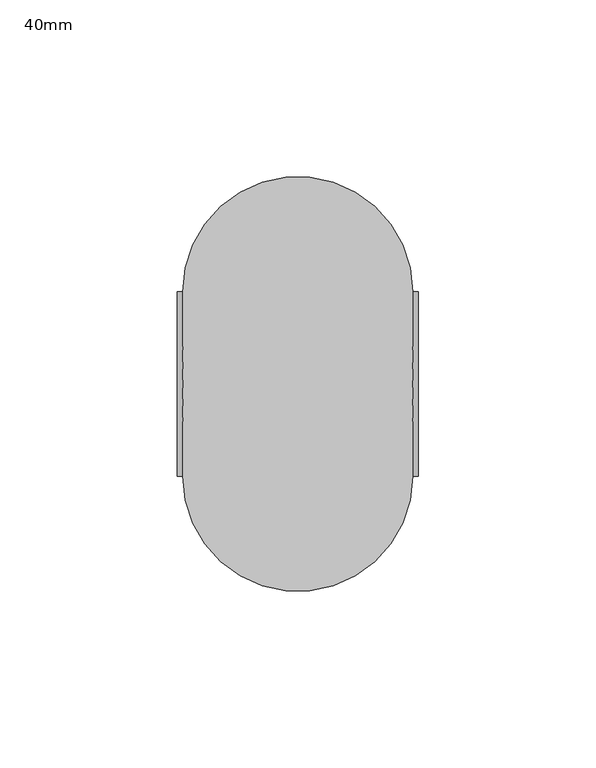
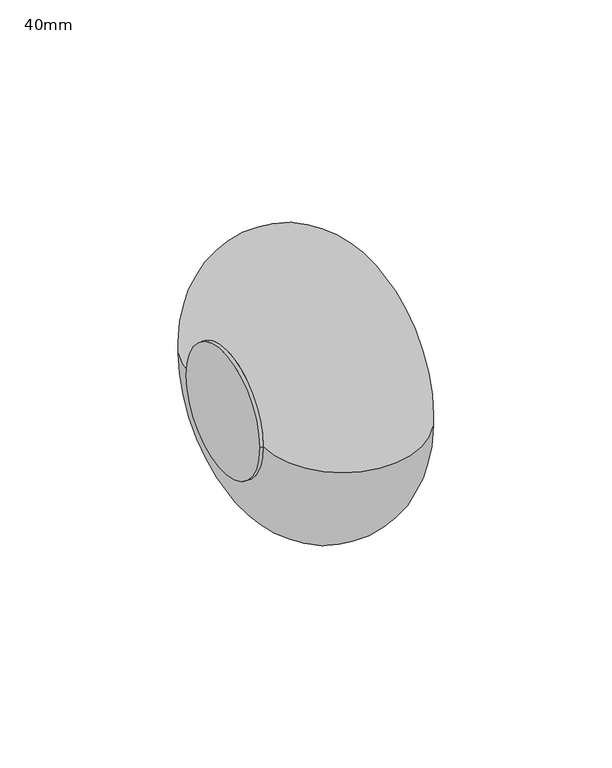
"""IFC4 building model written with IfcOpenShell, lengths in millimetres: pipe fitting geometry, PipeAccessory_HTA_CPVC_LinearExpansionCompensatorPN16 : 40mm."""

import ifcopenshell
import ifcopenshell.guid

model = None  # the IFC model being written
_history = None  # IfcOwnerHistory: only IFC2X3 demands one
_inside = {}  # id of a spatial element -> (the spatial element, [elements in it])
_under = {}  # id of a project, library or spatial element -> (it, [spatial elements below it])
_declared = {}  # id of a project -> (the project, [libraries it declares])
_typed = {}  # id of a type object -> (the type object, [elements of that type])
_made_of = {}  # id of a material, layer set ... -> (it, [elements and type objects made of it])


def new_model(schema):
    """Start an empty IFC model of exactly this schema.

    Asked for "IFC4X3", IfcOpenShell would pick the latest addendum, in which some entities
    have other attributes; the version numbers below select the first issue.
    IFC2X3 requires an IfcOwnerHistory on every rooted entity: one is made here for all.
    """
    global model, _history
    if schema == "IFC4X3":
        model = ifcopenshell.file(schema_version=(4, 3, 0, 0))
    else:
        model = ifcopenshell.file(schema=schema)
    _inside.clear()
    _under.clear()
    _declared.clear()
    _typed.clear()
    _made_of.clear()
    _history = None
    if model.schema == "IFC2X3":
        org = make("IfcOrganization", Name="unknown")
        user = make(
            "IfcPersonAndOrganization",
            ThePerson=make("IfcPerson", FamilyName="unknown"),
            TheOrganization=org,
        )
        app = make(
            "IfcApplication",
            ApplicationDeveloper=org,
            Version="unknown",
            ApplicationFullName="unknown",
            ApplicationIdentifier="unknown",
        )
        _history = make(
            "IfcOwnerHistory",
            OwningUser=user,
            OwningApplication=app,
            ChangeAction="ADDED",
            CreationDate=0,
        )
    return model


def make(cls, **values):
    """One entity of the class cls with the attributes given. An attribute that is None is left unset."""
    return model.create_entity(
        cls, **{name: value for name, value in values.items() if value is not None}
    )


def rooted(cls, **values):
    """An entity with a GlobalId (a new one), such as an element, a storey or a relation."""
    return make(cls, GlobalId=ifcopenshell.guid.new(), OwnerHistory=_history, **values)


def si_unit(unit_type, name, prefix=None):
    """IfcSIUnit, for example si_unit("LENGTHUNIT", "METRE", prefix="MILLI")."""
    return make("IfcSIUnit", UnitType=unit_type, Prefix=prefix, Name=name)


def assignment(units):
    """IfcUnitAssignment: the units of a project."""
    return None if units is None else make("IfcUnitAssignment", Units=units)


def point(xyz):
    """IfcCartesianPoint."""
    return None if xyz is None else make("IfcCartesianPoint", Coordinates=xyz)


def direction(xyz):
    """IfcDirection."""
    return None if xyz is None else make("IfcDirection", DirectionRatios=xyz)


def frame(location, z_axis=None, x_axis=None):
    """IfcAxis2Placement3D, a coordinate frame: its origin and axes. An axis left out is left unset."""
    return make(
        "IfcAxis2Placement3D",
        Location=point(location),
        Axis=direction(z_axis),
        RefDirection=direction(x_axis),
    )


def frame_2d(location, x_axis=None):
    """IfcAxis2Placement2D, a coordinate frame in the plane: its origin and x axis."""
    return make(
        "IfcAxis2Placement2D", Location=point(location), RefDirection=direction(x_axis)
    )


def origin():
    """The frame at (0, 0, 0) with its axes left unset."""
    return frame((0.0, 0.0, 0.0))


def origin_2d():
    """The frame at (0, 0) in the plane with its x axis left unset."""
    return frame_2d((0.0, 0.0))


def place(relative_to, where):
    """IfcLocalPlacement: puts the frame where relative to a parent placement (None: the world)."""
    return make(
        "IfcLocalPlacement", PlacementRelTo=relative_to, RelativePlacement=where
    )


def context(
    kind, dimensions, precision=None, world=None, true_north=None, identifier=None
):
    """IfcGeometricRepresentationContext, for example the 3D "Model" context."""
    return make(
        "IfcGeometricRepresentationContext",
        ContextIdentifier=identifier,
        ContextType=kind,
        CoordinateSpaceDimension=dimensions,
        Precision=precision,
        WorldCoordinateSystem=world,
        TrueNorth=true_north,
    )


def project(units=None, contexts=None):
    """IfcProject with its units and contexts."""
    return rooted(
        "IfcProject",
        Name="project",
        RepresentationContexts=contexts,
        UnitsInContext=assignment(units),
    )


def spatial(cls, under=None, at=None, **own):
    """A site, building, storey or space (cls), placed at a placement, below another one or the project."""
    s = rooted(cls, ObjectPlacement=at, **own)
    if under is not None:
        _under.setdefault(under.id(), (under, []))[1].append(s)
    return s


def circle_curve(where, radius):
    """IfcCircle in the frame where."""
    return make("IfcCircle", Position=where, Radius=radius)


def ellipse_curve(where, semi_axis1, semi_axis2):
    """IfcEllipse in the frame where."""
    return make(
        "IfcEllipse", Position=where, SemiAxis1=semi_axis1, SemiAxis2=semi_axis2
    )


def trimmed(basis, trim1, trim2, sense, master):
    """IfcTrimmedCurve: the piece of a basis curve between two trims."""
    return make(
        "IfcTrimmedCurve",
        BasisCurve=basis,
        Trim1=trim1,
        Trim2=trim2,
        SenseAgreement=sense,
        MasterRepresentation=master,
    )


def segment(curve, same_sense, transition):
    """IfcCompositeCurveSegment."""
    return make(
        "IfcCompositeCurveSegment",
        Transition=transition,
        SameSense=same_sense,
        ParentCurve=curve,
    )


def composite_curve(segments, self_intersect=None):
    """IfcCompositeCurve: segments joined end to end."""
    return make("IfcCompositeCurve", Segments=segments, SelfIntersect=self_intersect)


def outline(outer, holes=None, kind="AREA"):
    """IfcArbitraryClosedProfileDef: a profile drawn as a closed curve; with holes, ...WithVoids."""
    if holes is None:
        return make("IfcArbitraryClosedProfileDef", ProfileType=kind, OuterCurve=outer)
    return make(
        "IfcArbitraryProfileDefWithVoids",
        ProfileType=kind,
        OuterCurve=outer,
        InnerCurves=holes,
    )


def extrude(swept, where, along, depth):
    """IfcExtrudedAreaSolid: the profile swept, set in the frame where, extruded along a direction by depth."""
    return make(
        "IfcExtrudedAreaSolid",
        SweptArea=swept,
        Position=where,
        ExtrudedDirection=direction(along),
        Depth=depth,
    )


def shape(context_of_items, identifier, shape_type, items):
    """IfcShapeRepresentation: the items that make up one representation, for example the "Body"."""
    return make(
        "IfcShapeRepresentation",
        ContextOfItems=context_of_items,
        RepresentationIdentifier=identifier,
        RepresentationType=shape_type,
        Items=items,
    )


def source(mapping_origin, context_of_items, identifier, shape_type, items):
    """IfcRepresentationMap: a shape defined once, which mapped items show again and again."""
    return make(
        "IfcRepresentationMap",
        MappingOrigin=mapping_origin,
        MappedRepresentation=shape(context_of_items, identifier, shape_type, items),
    )


def transform(
    local_origin,
    x_axis=None,
    y_axis=None,
    z_axis=None,
    scale=None,
    scale2=None,
    scale3=None,
    uniform=True,
):
    """IfcCartesianTransformationOperator3D, or its non-uniform kind. x_axis, y_axis, z_axis: its Axis1, 2, 3."""
    if uniform:
        return make(
            "IfcCartesianTransformationOperator3D",
            Axis1=direction(x_axis),
            Axis2=direction(y_axis),
            LocalOrigin=point(local_origin),
            Scale=scale,
            Axis3=direction(z_axis),
        )
    return make(
        "IfcCartesianTransformationOperator3DnonUniform",
        Axis1=direction(x_axis),
        Axis2=direction(y_axis),
        LocalOrigin=point(local_origin),
        Scale=scale,
        Axis3=direction(z_axis),
        Scale2=scale2,
        Scale3=scale3,
    )


def mapped(mapping_source, mapping_target):
    """IfcMappedItem: shows the shape of a source again, moved by a transform."""
    return make(
        "IfcMappedItem", MappingSource=mapping_source, MappingTarget=mapping_target
    )


def made_of(thing, what):
    """Note that an element or type object is made of a material, layer set ...; save() writes the relation."""
    if what is not None:
        _made_of.setdefault(what.id(), (what, []))[1].append(thing)
    return thing


def element(
    cls,
    number,
    at=None,
    inside=None,
    cuts=None,
    type_object=None,
    material=None,
    context=None,
    identifier="Body",
    shape_type=None,
    held_by="IfcProductDefinitionShape",
    body=None,
    shapes=None,
    **own,
):
    """One element of the class cls, such as IfcWall. Its Tag is "e" and its number.

    at: its placement. inside: the storey or other place that contains it. cuts: it is an
    opening in that element (IfcRelVoidsElement). A single representation is given by context,
    identifier, shape_type and body (its items); several are given by shapes. held_by: the class
    of the entity that holds the representations. save() writes the other relations.
    """
    e = rooted(cls, Tag="e%d" % number, ObjectPlacement=at, **own)
    if body is not None:
        shapes = [shape(context, identifier, shape_type, body)]
    if shapes is not None:
        e.Representation = make(held_by, Representations=shapes)
    if inside is not None:
        _inside.setdefault(inside.id(), (inside, []))[1].append(e)
    if cuts is not None:
        rooted(
            "IfcRelVoidsElement", RelatingBuildingElement=cuts, RelatedOpeningElement=e
        )
    if type_object is not None:
        _typed.setdefault(type_object.id(), (type_object, []))[1].append(e)
    return made_of(e, material)


def aggregate(whole, parts):
    """IfcRelAggregates: a whole, such as a stair, and the parts it consists of."""
    return rooted("IfcRelAggregates", RelatingObject=whole, RelatedObjects=parts)


def save(model, path):
    """Write the relations noted so far, then the file.

    IfcRelAggregates (storeys below a building ...), IfcRelContainedInSpatialStructure (elements
    in a storey), IfcRelDefinesByType, IfcRelAssociatesMaterial and IfcRelDeclares: one each for
    every whole, place, type object, material and project.
    """
    for whole, parts in _under.values():
        aggregate(whole, parts)
    for where, things in _inside.values():
        rooted(
            "IfcRelContainedInSpatialStructure",
            RelatedElements=things,
            RelatingStructure=where,
        )
    for kind, things in _typed.values():
        rooted("IfcRelDefinesByType", RelatedObjects=things, RelatingType=kind)
    for what, things in _made_of.values():
        rooted("IfcRelAssociatesMaterial", RelatedObjects=things, RelatingMaterial=what)
    for by, libraries in _declared.values():
        rooted("IfcRelDeclares", RelatingContext=by, RelatedDefinitions=libraries)
    model.write(path)


def plane_surface(at):
    """IfcPlane: the flat surface through the origin of the frame at, square to its z axis."""
    return make("IfcPlane", Position=at)


def revolved_surface(curve, axis_point, axis_direction):
    """IfcSurfaceOfRevolution: the curve turned about the line through axis_point along axis_direction."""
    return make(
        "IfcSurfaceOfRevolution",
        SweptCurve=make("IfcArbitraryOpenProfileDef", ProfileType="CURVE", Curve=curve),
        AxisPosition=make("IfcAxis1Placement", Location=point(axis_point), Axis=direction(axis_direction)),
    )


def advanced_brep(points, edges, surfaces, faces):
    """IfcAdvancedBrep: a solid bounded by faces that lie on surfaces and meet in shared edges.

    An edge is (start, end): straight between two places in points (the first is 0);
    or (start, end, curve); or (start, end, curve, False) where it runs against its curve.
    A face is (place in surfaces, loops), or (place, loops, False) where it looks against
    its surface's normal. A loop lists edges by number (the first is 1), with a minus sign
    where the edge is run from its end to its start. The first loop is the outer one.
    """
    corners = [point(p) for p in points]
    vertices = [make("IfcVertexPoint", VertexGeometry=c) for c in corners]
    made = []
    for start, end, *more in edges:
        made.append(
            make(
                "IfcEdgeCurve",
                EdgeStart=vertices[start],
                EdgeEnd=vertices[end],
                EdgeGeometry=more[0] if more else make("IfcPolyline", Points=[corners[start], corners[end]]),
                SameSense=more[1] if len(more) > 1 else True,
            )
        )
    hull = []
    for where, loops, *sense in faces:
        bounds = []
        for j, loop in enumerate(loops):
            ring = [make("IfcOrientedEdge", EdgeElement=made[abs(k) - 1], Orientation=k > 0) for k in loop]
            bounds.append(
                make(
                    "IfcFaceOuterBound" if j == 0 else "IfcFaceBound",
                    Bound=make("IfcEdgeLoop", EdgeList=ring),
                    Orientation=True,
                )
            )
        hull.append(make("IfcAdvancedFace", Bounds=bounds, FaceSurface=surfaces[where], SameSense=sense[0] if sense else True))
    return make("IfcAdvancedBrep", Outer=make("IfcClosedShell", CfsFaces=hull))


def pipe_fitting_40mm_5f575670(model_context):
    return source(origin(), model_context, "Body", "SolidModel", [
        extrude(outline(composite_curve([segment(trimmed(circle_curve(origin_2d(), 26.0), [point((-26.0, 0.0))], [point((26.0, 0.0))], False, "CARTESIAN"), True, "CONTINUOUS"), segment(trimmed(circle_curve(origin_2d(), 26.0), [point((26.0, 0.0))], [point((-26.0, 0.0))], False, "CARTESIAN"), True, "CONTINUOUS")], self_intersect=False)), frame((32.5, 0.0, 0.0), z_axis=(1.0, 0.0, 0.0), x_axis=(0.0, 1.0, 0.0)), (0.0, 0.0, 1.0), 1.5),
        extrude(outline(composite_curve([segment(trimmed(circle_curve(origin_2d(), 26.0), [point((-26.0, 0.0))], [point((26.0, 0.0))], False, "CARTESIAN"), True, "CONTINUOUS"), segment(trimmed(circle_curve(origin_2d(), 26.0), [point((26.0, 0.0))], [point((-26.0, 0.0))], False, "CARTESIAN"), True, "CONTINUOUS")], self_intersect=False)), frame((-34.0, 0.0, 0.0), z_axis=(1.0, 0.0, 0.0), x_axis=(0.0, 1.0, 0.0)), (0.0, 0.0, 1.0), 1.5),
        advanced_brep(
        [(-32.5, 0.0, 0.0), (-32.5, 26.0, 0.0), (-32.5, -26.0, 0.0), (32.5, -26.0, 0.0), (32.5, 26.0, 0.0), (32.5, 0.0, 0.0)],
        [
            (0, 1),
            (1, 2, circle_curve(frame((-32.5, 0.0, 0.0), z_axis=(-1.0, 0.0, 0.0), x_axis=(0.0, 1.0, 0.0)), 26.0)),
            (2, 0),
            (2, 1, circle_curve(frame((-32.5, 0.0, 0.0), z_axis=(-1.0, 0.0, 0.0), x_axis=(0.0, 1.0, 0.0)), 26.0)),
            (3, 4, circle_curve(frame((32.5, 0.0, 0.0), z_axis=(1.0, 0.0, 0.0), x_axis=(0.0, 1.0, 0.0)), 26.0)),
            (4, 5),
            (5, 3),
            (4, 3, circle_curve(frame((32.5, 0.0, 0.0), z_axis=(1.0, 0.0, 0.0), x_axis=(0.0, 1.0, 0.0)), 26.0)),
            (1, 4, circle_curve(frame((0.0, 26.0, 0.0), z_axis=(0.0, 0.0, -1.0), x_axis=(1.0, 0.0, 0.0)), 32.5)),
            (3, 2, circle_curve(frame((0.0, -26.0, 0.0), z_axis=(0.0, 0.0, -1.0), x_axis=(1.0, 0.0, 0.0)), 32.5)),
        ],
        [
            plane_surface(frame((-32.5, 0.0, 0.0), z_axis=(-1.0, 0.0, 0.0), x_axis=(0.0, 1.0, 0.0))),
            plane_surface(frame((32.5, 0.0, 0.0), z_axis=(1.0, 0.0, 0.0), x_axis=(0.0, 1.0, 0.0))),
            revolved_surface(trimmed(ellipse_curve(frame((0.0, 26.0, 0.0), z_axis=(0.0, 0.0, 1.0), x_axis=(1.0, 0.0, 0.0)), 32.5, 32.5), [point((32.5, 26.0, 0.0))], [point((-32.5, 26.0, 0.0))], True, "CARTESIAN"), (-32.5, 0.0, 0.0), (-1.0, 0.0, 0.0)),
        ],
        [
            (0, [[1, 2, 3]]),
            (0, [[-3, 4, -1]]),
            (1, [[5, 6, 7]]),
            (1, [[8, -7, -6]]),
            (2, [[-2, 9, -5, 10]]),
            (2, [[-4, -10, -8, -9]]),
        ],
    ),
    ])


if __name__ == "__main__":
    model = new_model("IFC4")
    model_context = context("Model", 3, world=origin())
    ifc_project = project(units=[si_unit("LENGTHUNIT", "METRE", prefix="MILLI")], contexts=[model_context])
    site = spatial("IfcSite", under=ifc_project)
    building = spatial("IfcBuilding", under=site)
    placement = place(None, origin())
    pipe_fitting_40mm_shape = pipe_fitting_40mm_5f575670(model_context)
    element("IfcPipeFitting", 1, ObjectType="PipeAccessory_HTA_CPVC_LinearExpansionCompensatorPN16 : 40mm", at=placement, inside=building, context=model_context, shape_type="MappedRepresentation", body=[
        mapped(pipe_fitting_40mm_shape, transform((0.0, 0.0, 0.0), x_axis=(1.0, 0.0, 0.0), y_axis=(0.0, 1.0, 0.0), z_axis=(0.0, 0.0, 1.0))),
    ])
    save(model, "model.ifc")
